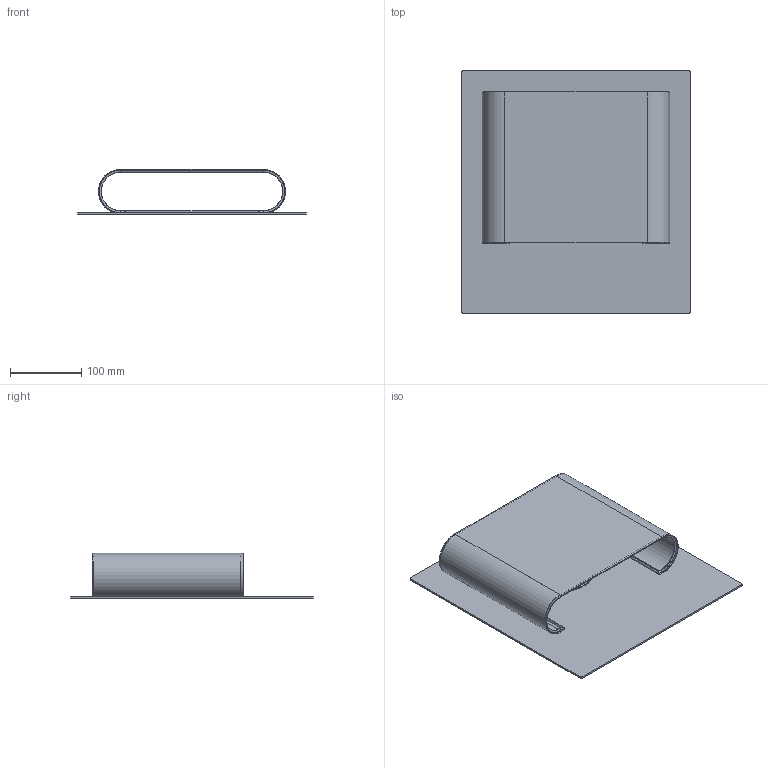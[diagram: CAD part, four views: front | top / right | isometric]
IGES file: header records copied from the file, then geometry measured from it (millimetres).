
Start section: SolidWorks IGES file using analytic representation for surfaces
Global section: file name: C:\Users\Joandita\Dropbox\Rakumba Industrial Design\PRODUCT\2 DEVELOPMENT\ELWOOD\CAD\Final Assembly\Elwood Landscape Indoor - Lightweight.IGS; native system: SolidWorks 2017; preprocessor: SolidWorks 2017; author: Joandita; date: 230904.141330; units: millimetre
Bounding box: 320 x 340 x 63.5 mm (x, y, z)
Surface area: 414183.6 mm2 (no closed solid volume)
Topology: 0 solids, 0 shells, 64 faces, 976 edges, 976 vertices
Faces by surface type: bspline 32, revolution 32
